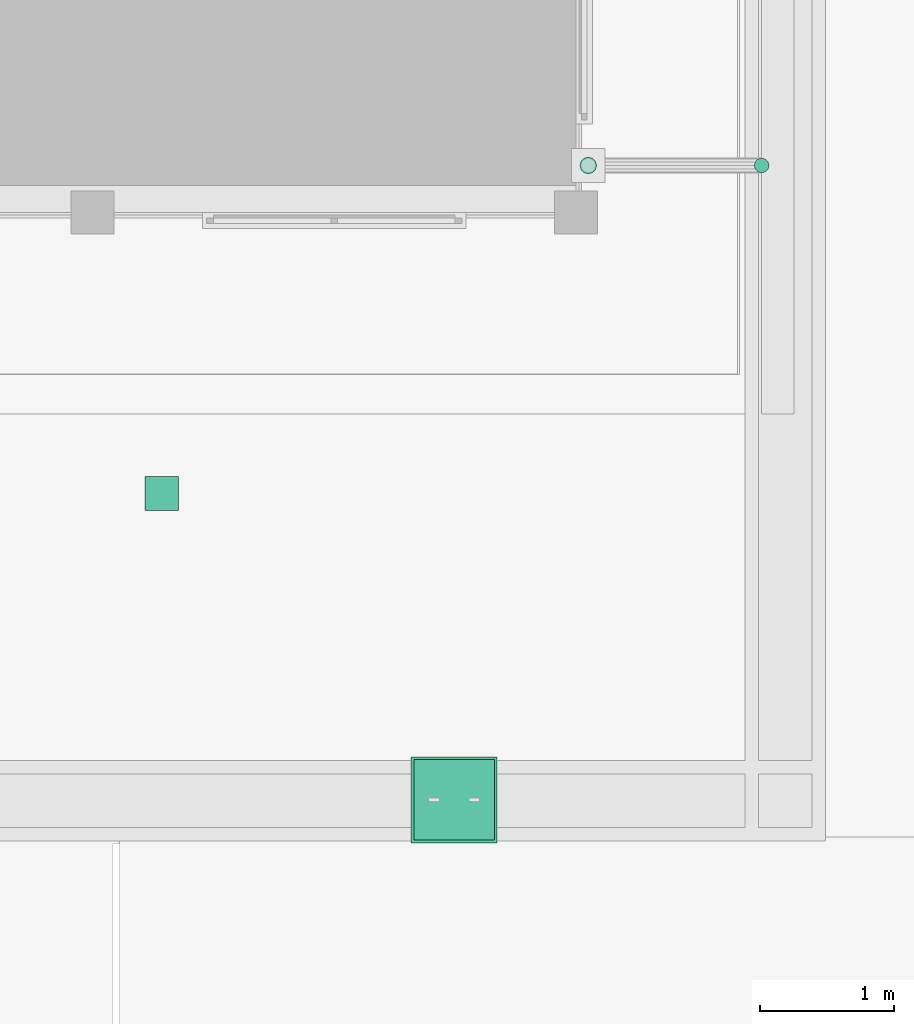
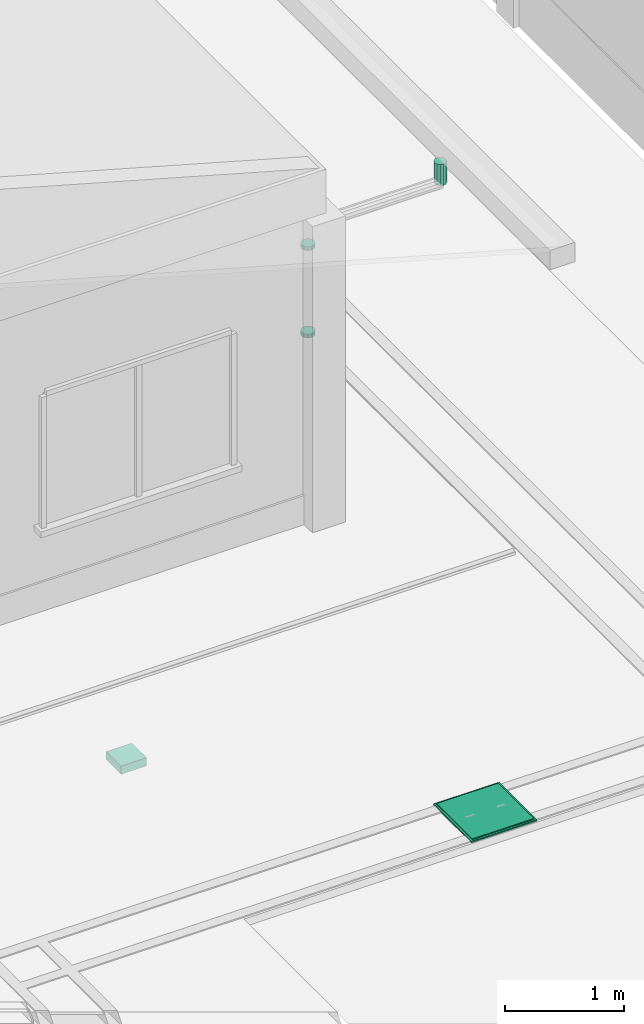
# One storey, part 129 of 177: 3 pipe segments, 2 distribution chamber elements, 1 waste terminal.
"""IFC4 building model written with IfcOpenShell, lengths in metres."""

from ifc_helpers import new_model, si_unit, origin, origin_with_axes, place, context, subcontext, project, spatial, triangles, element, save


model = new_model("IFC4")

# Units and contexts
model_context = context("Model", 3, precision=1e-05, world=origin_with_axes())
body_context = subcontext(model_context, "Body", "Model", "MODEL_VIEW")
ifc_project = project(units=[si_unit("LENGTHUNIT", "METRE"), si_unit("AREAUNIT", "SQUARE_METRE"), si_unit("VOLUMEUNIT", "CUBIC_METRE"), si_unit("PLANEANGLEUNIT", "RADIAN")], contexts=[model_context])

# Site, building, storey
site_placement = place(None, origin_with_axes())
site = spatial("IfcSite", under=ifc_project, at=site_placement, Name="Predio Los Mangos - Morales, San Martín", CompositionType="ELEMENT")
building_placement = place(site_placement, origin())
building = spatial("IfcBuilding", under=site, at=building_placement, Name="Hogar de Refugio Temporal", CompositionType="ELEMENT")
storey_placement = place(building_placement, origin())
storey = spatial("IfcBuildingStorey", under=building, at=storey_placement, Name="NIVEL 1 (NPT +0.00)", CompositionType="ELEMENT", Elevation=0.0)

# Pipe segments
pipe_segment_1_placement = place(storey_placement, origin())
element("IfcPipeSegment", 1, at=pipe_segment_1_placement, inside=storey, Name="montante_boquilla", ObjectType="Montante PVC 4\"", PredefinedType="RIGIDSEGMENT", context=body_context, shape_type="Tessellation", body=[
    triangles([(67.88, 93.105, 3.13), (67.88, 93.105, 2.91), (67.8525, 93.0976, 3.13), (67.8525, 93.0976, 2.91), (67.8324, 93.0775, 3.13), (67.8324, 93.0775, 2.91), (67.825, 93.05, 3.13), (67.825, 93.05, 2.91), (67.8324, 93.0225, 3.13), (67.8324, 93.0225, 2.91), (67.8525, 93.0024, 3.13), (67.8525, 93.0024, 2.91), (67.88, 92.995, 3.13), (67.88, 92.995, 2.91), (67.9075, 93.0024, 3.13), (67.9075, 93.0024, 2.91), (67.9276, 93.0225, 3.13), (67.9276, 93.0225, 2.91), (67.935, 93.05, 3.13), (67.935, 93.05, 2.91), (67.9276, 93.0775, 3.13), (67.9276, 93.0775, 2.91), (67.9075, 93.0976, 3.13), (67.9075, 93.0976, 2.91)], [[1, 2, 4], [1, 4, 3], [3, 4, 6], [3, 6, 5], [5, 6, 8], [5, 8, 7], [7, 8, 10], [7, 10, 9], [9, 10, 12], [9, 12, 11], [11, 12, 14], [11, 14, 13], [13, 14, 16], [13, 16, 15], [15, 16, 18], [15, 18, 17], [17, 18, 20], [17, 20, 19], [19, 20, 22], [19, 22, 21], [6, 4, 2], [2, 24, 22], [22, 20, 18], [18, 16, 14], [14, 12, 10], [10, 8, 6], [6, 2, 22], [22, 18, 14], [14, 10, 6], [22, 14, 6], [21, 22, 24], [21, 24, 23], [23, 24, 2], [23, 2, 1], [23, 1, 3], [3, 5, 7], [7, 9, 11], [11, 13, 15], [15, 17, 19], [19, 21, 23], [23, 3, 7], [7, 11, 15], [15, 19, 23], [7, 15, 23]]),
])
pipe_segment_2_placement = place(storey_placement, origin())
element("IfcPipeSegment", 2, at=pipe_segment_2_placement, inside=storey, Name="montante_abrazadera", ObjectType="Montante PVC 4\"", PredefinedType="RIGIDSEGMENT", context=body_context, shape_type="Tessellation", body=[
    triangles([(66.59, 92.988, 1.8), (66.59, 92.988, 1.84), (66.559, 92.9963, 1.8), (66.559, 92.9963, 1.84), (66.5363, 93.019, 1.8), (66.5363, 93.019, 1.84), (66.528, 93.05, 1.8), (66.528, 93.05, 1.84), (66.5363, 93.081, 1.8), (66.5363, 93.081, 1.84), (66.559, 93.1037, 1.8), (66.559, 93.1037, 1.84), (66.59, 93.112, 1.8), (66.59, 93.112, 1.84), (66.621, 93.1037, 1.8), (66.621, 93.1037, 1.84), (66.6437, 93.081, 1.8), (66.6437, 93.081, 1.84), (66.652, 93.05, 1.8), (66.652, 93.05, 1.84), (66.6437, 93.019, 1.8), (66.6437, 93.019, 1.84), (66.621, 92.9963, 1.8), (66.621, 92.9963, 1.84)], [[1, 2, 4], [1, 4, 3], [3, 4, 6], [3, 6, 5], [5, 6, 8], [5, 8, 7], [7, 8, 10], [7, 10, 9], [9, 10, 12], [9, 12, 11], [11, 12, 14], [11, 14, 13], [13, 14, 16], [13, 16, 15], [15, 16, 18], [15, 18, 17], [17, 18, 20], [17, 20, 19], [19, 20, 22], [19, 22, 21], [6, 4, 2], [2, 24, 22], [22, 20, 18], [18, 16, 14], [14, 12, 10], [10, 8, 6], [6, 2, 22], [22, 18, 14], [14, 10, 6], [22, 14, 6], [21, 22, 24], [21, 24, 23], [23, 24, 2], [23, 2, 1], [23, 1, 3], [3, 5, 7], [7, 9, 11], [11, 13, 15], [15, 17, 19], [19, 21, 23], [23, 3, 7], [7, 11, 15], [15, 19, 23], [7, 15, 23]]),
])
pipe_segment_3_placement = place(storey_placement, origin())
element("IfcPipeSegment", 3, at=pipe_segment_3_placement, inside=storey, Name="montante_abrazadera", ObjectType="Montante PVC 4\"", PredefinedType="RIGIDSEGMENT", context=body_context, shape_type="Tessellation", body=[
    triangles([(66.59, 92.988, 2.7), (66.59, 92.988, 2.74), (66.559, 92.9963, 2.7), (66.559, 92.9963, 2.74), (66.5363, 93.019, 2.7), (66.5363, 93.019, 2.74), (66.528, 93.05, 2.7), (66.528, 93.05, 2.74), (66.5363, 93.081, 2.7), (66.5363, 93.081, 2.74), (66.559, 93.1037, 2.7), (66.559, 93.1037, 2.74), (66.59, 93.112, 2.7), (66.59, 93.112, 2.74), (66.621, 93.1037, 2.7), (66.621, 93.1037, 2.74), (66.6437, 93.081, 2.7), (66.6437, 93.081, 2.74), (66.652, 93.05, 2.7), (66.652, 93.05, 2.74), (66.6437, 93.019, 2.7), (66.6437, 93.019, 2.74), (66.621, 92.9963, 2.7), (66.621, 92.9963, 2.74)], [[1, 2, 4], [1, 4, 3], [3, 4, 6], [3, 6, 5], [5, 6, 8], [5, 8, 7], [7, 8, 10], [7, 10, 9], [9, 10, 12], [9, 12, 11], [11, 12, 14], [11, 14, 13], [13, 14, 16], [13, 16, 15], [15, 16, 18], [15, 18, 17], [17, 18, 20], [17, 20, 19], [19, 20, 22], [19, 22, 21], [6, 4, 2], [2, 24, 22], [22, 20, 18], [18, 16, 14], [14, 12, 10], [10, 8, 6], [6, 2, 22], [22, 18, 14], [14, 10, 6], [22, 14, 6], [21, 22, 24], [21, 24, 23], [23, 24, 2], [23, 2, 1], [23, 1, 3], [3, 5, 7], [7, 9, 11], [11, 13, 15], [15, 17, 19], [19, 21, 23], [23, 3, 7], [7, 11, 15], [15, 19, 23], [7, 15, 23]]),
])

# Waste terminal
waste_terminal_placement = place(storey_placement, origin())
element("IfcWasteTerminal", 4, at=waste_terminal_placement, inside=storey, Name="sumidero_fondo", ObjectType="Sumidero con rejilla", PredefinedType="GULLYTRAP", context=body_context, shape_type="Tessellation", body=[
    triangles([(63.29, 90.484, -0.02), (63.54, 90.484, -0.02), (63.54, 90.734, -0.02), (63.29, 90.734, -0.02), (63.29, 90.484, 0.064), (63.54, 90.484, 0.064), (63.54, 90.734, 0.064), (63.29, 90.734, 0.064)], [[1, 4, 3], [1, 3, 2], [5, 6, 7], [5, 7, 8], [1, 2, 6], [1, 6, 5], [2, 3, 7], [2, 7, 6], [3, 4, 8], [3, 8, 7], [4, 1, 5], [4, 5, 8]]),
])

# Distribution chamber elements
distribution_chamber_element_1_placement = place(storey_placement, origin())
element("IfcDistributionChamberElement", 5, at=distribution_chamber_element_1_placement, inside=storey, Name="tapa_insp_junta", ObjectType="Tapa de inspección", PredefinedType="INSPECTIONCHAMBER", context=body_context, shape_type="Tessellation", body=[
    triangles([(65.272, 88.009, 0.082), (65.912, 88.009, 0.082), (65.912, 88.649, 0.082), (65.272, 88.649, 0.082), (65.272, 88.009, 0.096), (65.912, 88.009, 0.096), (65.912, 88.649, 0.096), (65.272, 88.649, 0.096)], [[1, 4, 3], [1, 3, 2], [5, 6, 7], [5, 7, 8], [1, 2, 6], [1, 6, 5], [2, 3, 7], [2, 7, 6], [3, 4, 8], [3, 8, 7], [4, 1, 5], [4, 5, 8]]),
])
distribution_chamber_element_2_placement = place(storey_placement, origin())
element("IfcDistributionChamberElement", 6, at=distribution_chamber_element_2_placement, inside=storey, Name="tapa_inspeccion", ObjectType="Tapa de inspección", PredefinedType="INSPECTIONCHAMBER", context=body_context, shape_type="Tessellation", body=[
    triangles([(65.292, 88.029, 0.082), (65.892, 88.029, 0.082), (65.892, 88.629, 0.082), (65.292, 88.629, 0.082), (65.292, 88.029, 0.104), (65.892, 88.029, 0.104), (65.892, 88.629, 0.104), (65.292, 88.629, 0.104)], [[1, 4, 3], [1, 3, 2], [5, 6, 7], [5, 7, 8], [1, 2, 6], [1, 6, 5], [2, 3, 7], [2, 7, 6], [3, 4, 8], [3, 8, 7], [4, 1, 5], [4, 5, 8]]),
])

save(model, "model.ifc")
